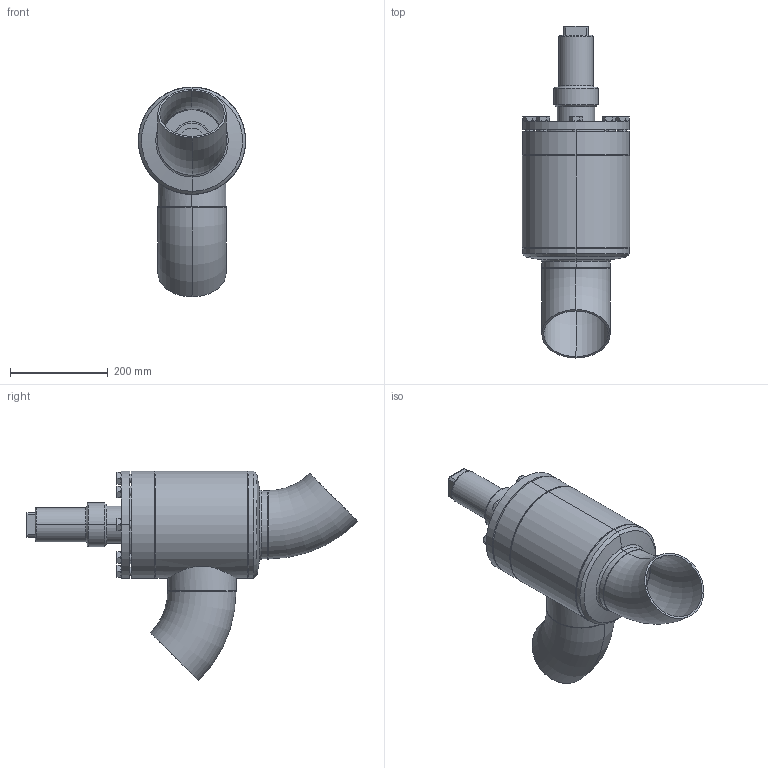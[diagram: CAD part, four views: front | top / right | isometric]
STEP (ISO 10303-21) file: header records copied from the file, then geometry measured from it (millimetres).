
FILE_DESCRIPTION (( 'STEP AP214' ), '1' );
FILE_NAME ('HRAB12300D20-DN125_R1_PS40.STEP', '2006-04-27T11:57:14', ( 'Herr Grams' ), ( 'AWP GmbH' ), 'SwSTEP 2.0', 'SolidWorks 2002296', '' );
FILE_SCHEMA (( 'AUTOMOTIVE_DESIGN' ));
Length unit declared in the file: millimetre
Products named in the file (15): HRAB12300D20-DN125_R1_PS40; AVB16300E20_Deck+Schr-DN125_Standard; Deckel16300E20-DN125_Standard; Sechskantschraube-DIN933_M16x 45; Gehäuse-kpl16300-DN125_R1_Standard; Rohrstutzen-A16300-DN125_R1_Standard; Boden16300-DN125_Standard; Gehäuse16300-DN125_Standard; Kopfstück16300-DN125_Standard; Rohrbogen 45°_Rohrbogen-DN125-45°; bead-DN125-3_Standard; bead-DN125-2_Standard; bead-DN125-1_Standard; bead-DN125-4_Standard; Kappe16402_DN125-150_Standard
Assembly tree (22 placements, depth 3):
  HRAB12300D20-DN125_R1_PS40
    AVB16300E20_Deck+Schr-DN125_Standard
      Sechskantschraube-DIN933_M16x 45  x8
      Deckel16300E20-DN125_Standard
    Kappe16402_DN125-150_Standard
    Gehäuse-kpl16300-DN125_R1_Standard
      Kopfstück16300-DN125_Standard
      Boden16300-DN125_Standard
      Rohrbogen 45°_Rohrbogen-DN125-45°  x2
      bead-DN125-1_Standard
      Rohrstutzen-A16300-DN125_R1_Standard
      Gehäuse16300-DN125_Standard
      bead-DN125-4_Standard
      bead-DN125-3_Standard
      bead-DN125-2_Standard
Bounding box: 219.55 x 678.74 x 429.02 mm (x, y, z)
Volume: 5706734.9 mm3; surface area: 1076328.4 mm2
Topology: 20 solids, 20 shells, 373 faces, 788 edges, 474 vertices
Faces by surface type: cone 126, plane 118, cylinder 93, torus 20, bspline 16
Entity records: 8659 total; most frequent: CARTESIAN_POINT 3575, DIRECTION 926, ORIENTED_EDGE 824, EDGE_CURVE 412, AXIS2_PLACEMENT_3D 405, VERTEX_POINT 256, EDGE_LOOP 240, CIRCLE 202
